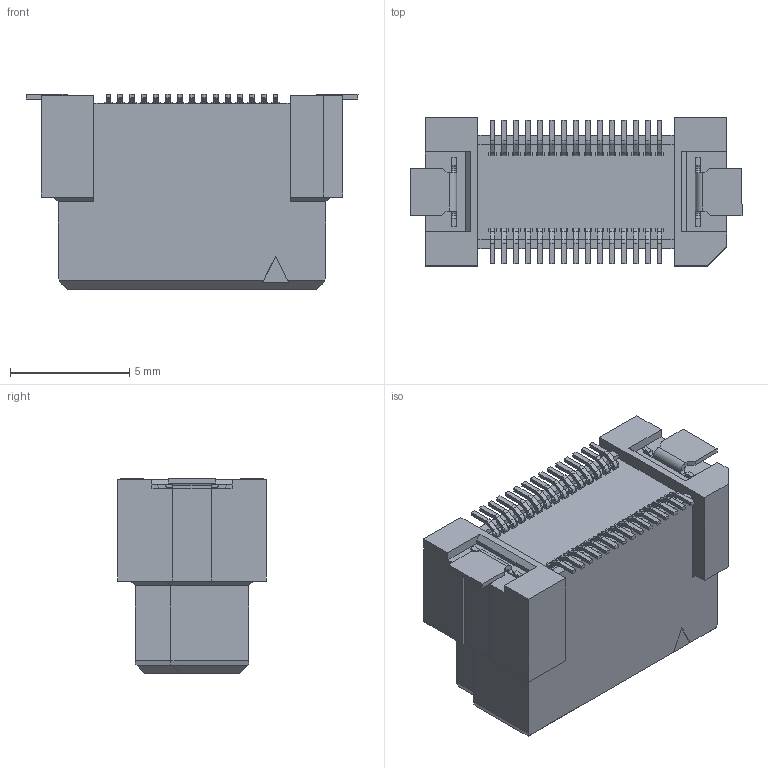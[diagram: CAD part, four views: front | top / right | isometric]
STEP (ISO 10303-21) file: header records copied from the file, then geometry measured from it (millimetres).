
FILE_DESCRIPTION(('Creo Elements/Direct Modeling STEP Export'),'2;1');
FILE_NAME('DT10-030S-10-T.stp','2017-08-11T10:03:31',(''),(''),'Creo Elements/Direct Modeling STEP processor for AP214 (Solid Model)','Creo Elements/Direct Modeling 19.0F 14-Feb-2017 (C) Parametric Technology GmbH','');
FILE_SCHEMA(('AUTOMOTIVE_DESIGN { 1 0 10303 214 1 1 1 1 }'));
Length unit declared in the file: millimetre
Products named in the file (2): DT10-030S-10-T
Assembly tree (1 placements, depth 2):
  DT10-030S-10-T
    DT10-030S-10-T
Bounding box: 13.9 x 6.2 x 8.18 mm (x, y, z)
Volume: 416.4 mm3; surface area: 688.5 mm2
Topology: 1 solids, 1 shells, 1151 faces, 3256 edges, 2170 vertices
Faces by surface type: plane 989, cylinder 162
Entity records: 36569 total; most frequent: ORIENTED_EDGE 6512, CARTESIAN_POINT 6502, DIRECTION 5843, EDGE_CURVE 3256, VECTOR 2821, LINE 2821, VERTEX_POINT 2170, AXIS2_PLACEMENT_3D 1511
